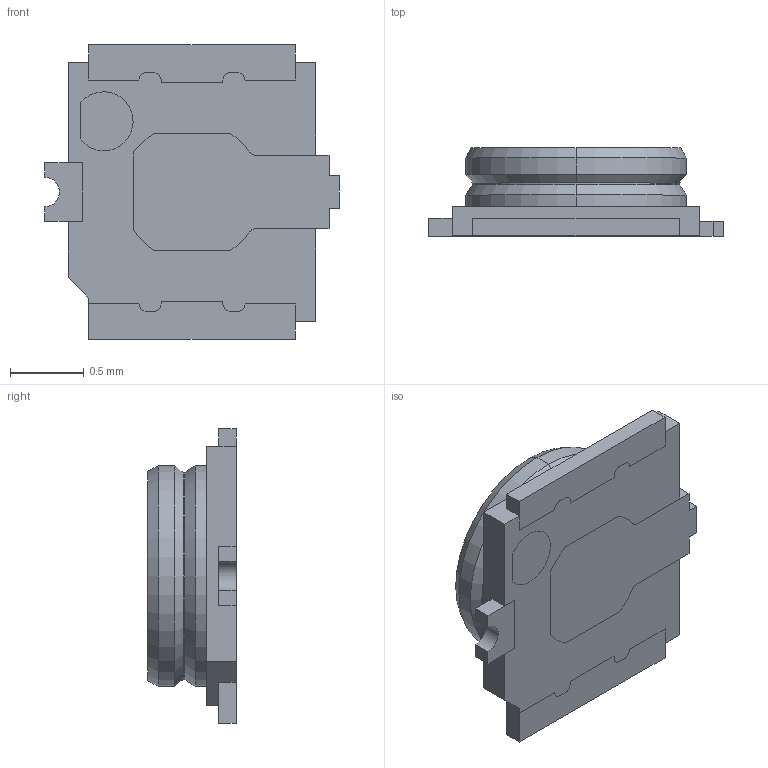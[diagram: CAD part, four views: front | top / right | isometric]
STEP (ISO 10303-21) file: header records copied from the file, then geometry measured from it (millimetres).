
FILE_DESCRIPTION (( 'STEP AP203' ), '1' );
FILE_NAME ('20449-001EC RECE ASSY STEP R5 ALL.STEP', '2018-04-25T07:57:30', ( '' ), ( '' ), 'SwSTEP 2.0', 'SolidWorks 2017', '' );
FILE_SCHEMA (( 'CONFIG_CONTROL_DESIGN' ));
Length unit declared in the file: millimetre
Products named in the file (1): 20449-001EC RECE ASSY STEP R5 ALL
Bounding box: 2 x 0.6 x 2 mm (x, y, z)
Surface area: 13.4 mm2 (no closed solid volume)
Topology: 0 solids, 2 shells, 53 faces, 178 edges, 131 vertices
Faces by surface type: plane 32, cylinder 11, cone 10
Entity records: 2032 total; most frequent: CARTESIAN_POINT 422, ORIENTED_EDGE 305, DIRECTION 299, EDGE_CURVE 178, LINE 135, VECTOR 135, VERTEX_POINT 131, AXIS2_PLACEMENT_3D 82
